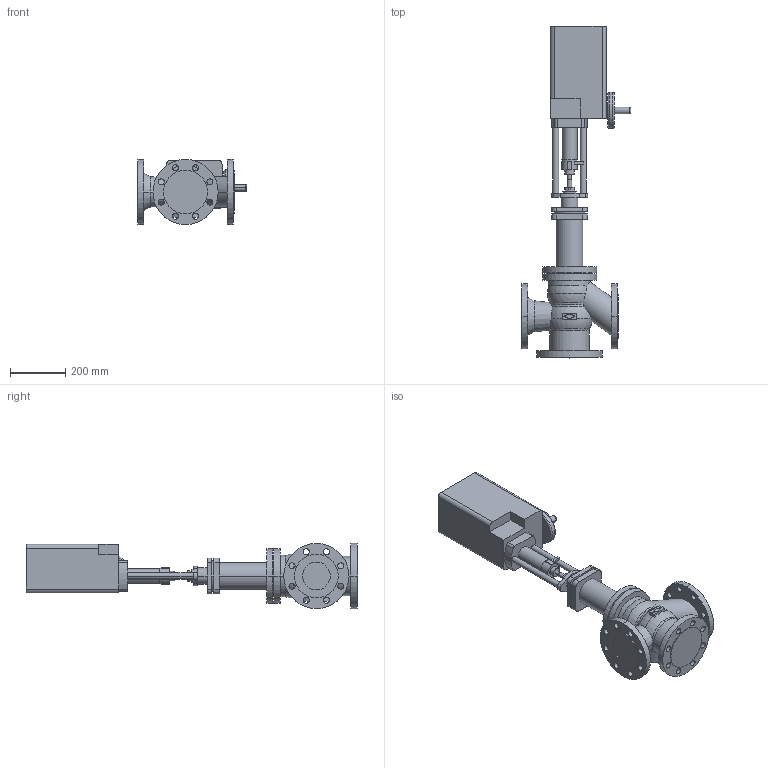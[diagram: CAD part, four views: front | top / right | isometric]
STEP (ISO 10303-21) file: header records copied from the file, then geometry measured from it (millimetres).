
FILE_DESCRIPTION(('OneSpaceDesigner STEP Export'),'2;1');
FILE_NAME('c000002476.stp','2006-09-21T12:02:12',(''),(''),'OneSpace Designer STEP processor for AP214 (Solid Model)','OneSpace Designer 13.20A 18-Aug-2005 (C) CoCreate Software GmbH','');
FILE_SCHEMA(('AUTOMOTIVE_DESIGN { 1 0 10303 214 1 1 1 1 }'));
Length unit declared in the file: millimetre
Products named in the file (2): 1; 2
Bounding box: 396.6 x 1197.2 x 235 mm (x, y, z)
Volume: 25666992.6 mm3; surface area: 1129531.8 mm2
Topology: 2 solids, 2 shells, 260 faces, 657 edges, 432 vertices
Faces by surface type: cylinder 136, plane 98, torus 18, sphere 4, cone 4
Entity records: 7372 total; most frequent: CARTESIAN_POINT 1531, ORIENTED_EDGE 1306, DIRECTION 1069, EDGE_CURVE 653, VERTEX_POINT 432, AXIS2_PLACEMENT_3D 388, EDGE_LOOP 343, VECTOR 293
